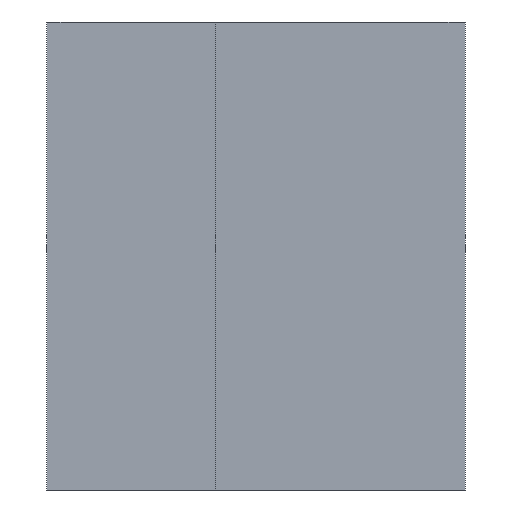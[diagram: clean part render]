
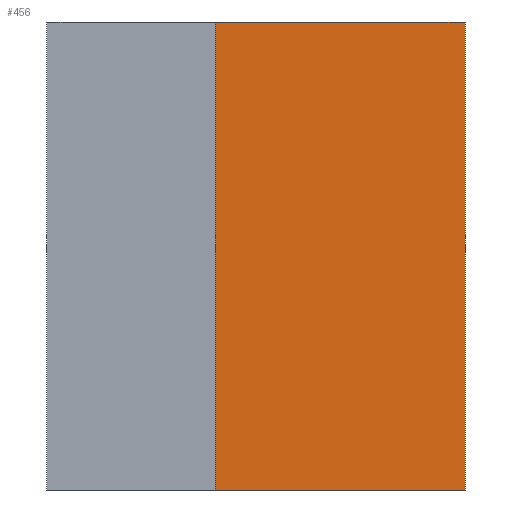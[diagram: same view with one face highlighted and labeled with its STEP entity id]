
A CAD part, left-side view. The second image highlights one B-rep face of the part: STEP entity #456.
In plain terms, the highlighted planar face has unit normal (-1, 0, 0).
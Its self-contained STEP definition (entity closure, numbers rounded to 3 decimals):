
#6 = CARTESIAN_POINT ( 'NONE',  ( -23.5, 40., 37.5 ) ) ;
#42 = DIRECTION ( 'NONE',  ( 0., 0., -1. ) ) ;
#44 = DIRECTION ( 'NONE',  ( 1., 0., 0. ) ) ;
#85 = DIRECTION ( 'NONE',  ( 0., 0., -1. ) ) ;
#122 = DIRECTION ( 'NONE',  ( 0., 0., -1. ) ) ;
#150 = ORIENTED_EDGE ( 'NONE', *, *, #371, .T. ) ;
#162 = CARTESIAN_POINT ( 'NONE',  ( -23.5, 40., -37.5 ) ) ;
#173 = DIRECTION ( 'NONE',  ( 0., -1., 0. ) ) ;
#177 = CARTESIAN_POINT ( 'NONE',  ( -23.5, 40., 37.5 ) ) ;
#179 = EDGE_CURVE ( 'NONE', #428, #632, #528, .T. ) ;
#180 = PLANE ( 'NONE',  #458 ) ;
#181 = VECTOR ( 'NONE', #122, 1000. ) ;
#223 = CARTESIAN_POINT ( 'NONE',  ( -23.5, 0., 37.5 ) ) ;
#226 = VERTEX_POINT ( 'NONE', #223 ) ;
#329 = CARTESIAN_POINT ( 'NONE',  ( -23.5, 0., 37.5 ) ) ;
#330 = CARTESIAN_POINT ( 'NONE',  ( -23.5, 40., 37.5 ) ) ;
#332 = VECTOR ( 'NONE', #607, 1000. ) ;
#347 = FACE_OUTER_BOUND ( 'NONE', #521, .T. ) ;
#350 = ORIENTED_EDGE ( 'NONE', *, *, #381, .F. ) ;
#371 = EDGE_CURVE ( 'NONE', #593, #428, #483, .T. ) ;
#381 = EDGE_CURVE ( 'NONE', #593, #226, #613, .T. ) ;
#385 = CARTESIAN_POINT ( 'NONE',  ( -23.5, 0., -37.5 ) ) ;
#388 = LINE ( 'NONE', #329, #628 ) ;
#399 = ORIENTED_EDGE ( 'NONE', *, *, #179, .T. ) ;
#419 = CARTESIAN_POINT ( 'NONE',  ( -23.5, 40., 37.5 ) ) ;
#428 = VERTEX_POINT ( 'NONE', #573 ) ;
#456 = ADVANCED_FACE ( 'NONE', ( #347 ), #180, .F. ) ;
#458 = AXIS2_PLACEMENT_3D ( 'NONE', #330, #44, #85 ) ;
#483 = LINE ( 'NONE', #419, #181 ) ;
#506 = ORIENTED_EDGE ( 'NONE', *, *, #533, .F. ) ;
#521 = EDGE_LOOP ( 'NONE', ( #399, #506, #350, #150 ) ) ;
#528 = LINE ( 'NONE', #162, #332 ) ;
#533 = EDGE_CURVE ( 'NONE', #226, #632, #388, .T. ) ;
#573 = CARTESIAN_POINT ( 'NONE',  ( -23.5, 40., -37.5 ) ) ;
#592 = VECTOR ( 'NONE', #173, 1000. ) ;
#593 = VERTEX_POINT ( 'NONE', #6 ) ;
#607 = DIRECTION ( 'NONE',  ( 0., -1., 0. ) ) ;
#613 = LINE ( 'NONE', #177, #592 ) ;
#628 = VECTOR ( 'NONE', #42, 1000. ) ;
#632 = VERTEX_POINT ( 'NONE', #385 ) ;
